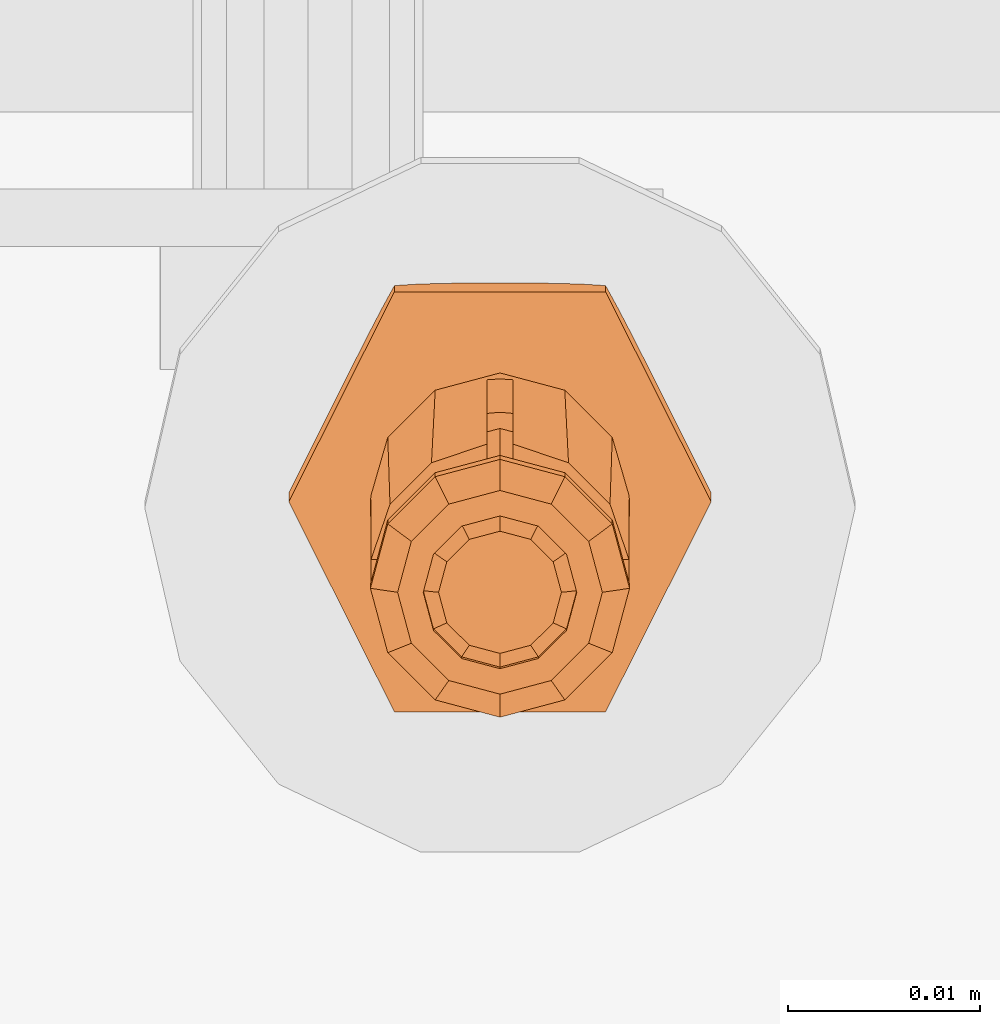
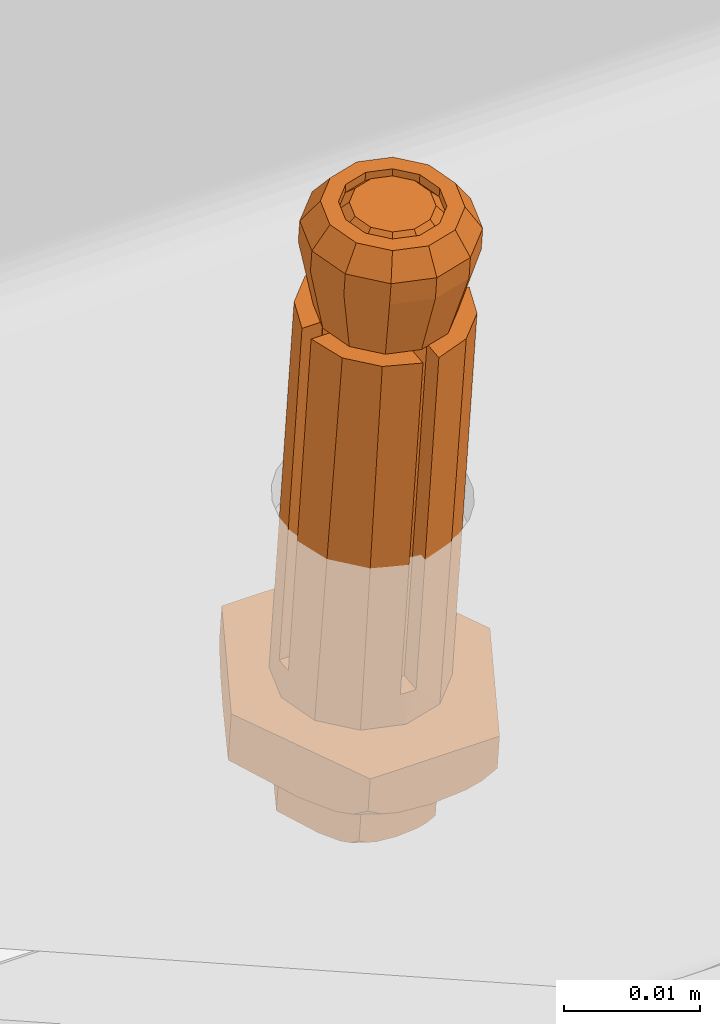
# One storey, part 144 of 162: 1 proxy.
"""IFC2X3 building model written with IfcOpenShell, lengths in millimetres."""

from ifc_helpers import new_model, entity, si_unit, converted_unit, origin_with_axes, place, context, project, spatial, faceted_brep, material, element, save


model = new_model("IFC2X3")

# Units and contexts
model_context = context("Model", 3, precision=1e-09, world=origin_with_axes())
ifc_project = project(units=[si_unit("LENGTHUNIT", "METRE", prefix="MILLI"), si_unit("AREAUNIT", "SQUARE_METRE"), si_unit("VOLUMEUNIT", "CUBIC_METRE"), converted_unit("PLANEANGLEUNIT", "DEGREE", entity("IfcPlaneAngleMeasure", 0.01745329), si_unit("PLANEANGLEUNIT", "RADIAN"), dimensions=[0, 0, 0, 0, 0, 0, 0])], contexts=[model_context])

# Site, building, storey
site_placement = place(None, origin_with_axes())
site = spatial("IfcSite", under=ifc_project, at=site_placement, Name="Hermannstra?e 1a, 60318 Frankfurt", CompositionType="ELEMENT")
building_placement = place(site_placement, origin_with_axes())
building = spatial("IfcBuilding", under=site, at=building_placement, Name="Struktur 1", CompositionType="ELEMENT")
storey_placement = place(building_placement, origin_with_axes())
storey = spatial("IfcBuildingStorey", under=building, at=storey_placement, Name="Default Storey", CompositionType="ELEMENT", Elevation=0.0)

# Proxy
ifc_material = material(Name="S235JR")
proxy_placement = place(None, origin_with_axes())
element("IfcBuildingElementProxy", 1, at=proxy_placement, inside=storey, material=ifc_material, ObjectType="-", context=model_context, shape_type="Brep", body=[
    faceted_brep([(2860.109364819, 2645.593143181, 17430.626436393), (2859.309364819, 2645.676765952, 17429.830818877), (2859.845263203, 2643.687722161, 17429.621761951), (2860.538083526, 2644.001908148, 17430.459190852), (2861.309364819, 2642.231641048, 17429.468721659), (2861.709364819, 2642.837043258, 17430.336758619), (2866.080646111, 2647.184378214, 17430.793681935), (2864.909364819, 2648.349243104, 17430.916114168), (2863.309364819, 2648.775613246, 17430.960927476), (2861.709364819, 2648.349243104, 17430.916114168), (2860.538083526, 2647.184378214, 17430.793681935), (2863.309364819, 2642.410673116, 17430.291945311), (2864.909364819, 2642.837043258, 17430.336758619), (2866.080646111, 2644.001908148, 17430.459190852), (2866.509364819, 2645.593143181, 17430.626436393), (2859.845263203, 2647.665809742, 17430.039875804), (2863.309364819, 2641.69867837, 17429.412705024), (2859.309364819, 2650.150584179, 17387.265281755), (2859.845263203, 2648.161540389, 17387.056224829), (2859.845263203, 2652.13962797, 17387.474338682), (2861.309364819, 2649.121890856, 17430.192916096), (2861.309364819, 2646.705459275, 17386.903184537), (2866.773466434, 2643.687722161, 17429.621761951), (2867.309364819, 2645.676765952, 17429.830818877), (2865.309364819, 2642.231641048, 17429.468721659), (2863.309364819, 2649.654853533, 17430.24893273), (2865.309364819, 2649.121890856, 17430.192916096), (2866.773466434, 2647.665809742, 17430.039875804), (2861.309364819, 2653.595709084, 17387.627378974), (2863.309364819, 2646.172496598, 17386.847167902), (2858.9792378, 2647.664279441, 17387.003960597), (2860.809364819, 2645.844178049, 17386.812660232), (2863.309364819, 2645.177974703, 17386.742639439), (2865.809364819, 2645.844178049, 17386.812660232), (2867.639491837, 2647.664279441, 17387.003960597), (2868.309364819, 2650.150584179, 17387.265281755), (2867.639491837, 2652.636888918, 17387.526602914), (2865.809364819, 2654.45699031, 17387.717903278), (2863.309364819, 2655.123193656, 17387.787924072), (2860.809364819, 2654.45699031, 17387.717903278), (2858.9792378, 2652.636888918, 17387.526602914), (2858.309364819, 2650.150584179, 17387.265281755), (2863.309364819, 2654.128671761, 17387.683395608), (2865.309364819, 2653.595709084, 17387.627378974), (2866.773466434, 2652.13962797, 17387.474338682), (2867.309364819, 2650.150584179, 17387.265281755), (2866.773466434, 2648.161540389, 17387.056224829), (2865.309364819, 2646.705459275, 17386.903184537), (2858.355136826, 2649.312036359, 17388.785960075), (2858.355136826, 2650.654640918, 17388.927073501), (2860.61652503, 2650.82825943, 17421.121586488), (2859.096454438, 2649.316515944, 17420.962695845), (2858.355136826, 2645.967125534, 17420.610660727), (2859.096454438, 2643.960339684, 17420.399739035), (2860.61652503, 2642.448596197, 17420.240848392), (2858.314457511, 2649.758962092, 17388.832933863), (2858.314457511, 2650.207715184, 17388.880099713), (2858.355136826, 2647.309730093, 17420.751774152), (2862.634364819, 2651.565516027, 17421.199075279), (2862.634364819, 2654.910426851, 17389.374374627), (2857.579618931, 2643.089710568, 17420.308232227), (2859.741100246, 2640.940070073, 17420.082295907), (2862.634364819, 2639.959054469, 17419.979187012), (2862.634364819, 2641.711339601, 17420.163359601), (2856.593199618, 2645.967125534, 17420.610660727), (2862.634364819, 2645.056250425, 17388.338658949), (2856.593199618, 2649.312036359, 17388.785960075), (2856.593199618, 2650.654640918, 17388.927073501), (2856.563127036, 2650.207439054, 17388.880070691), (2856.563127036, 2649.759238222, 17388.832962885), (2863.984364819, 2645.056250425, 17388.338658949), (2863.984364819, 2654.910426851, 17389.374374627), (2856.593199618, 2647.309730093, 17420.751774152), (2859.741100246, 2652.336785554, 17421.280138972), (2857.579618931, 2650.18714506, 17421.054202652), (2862.634364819, 2653.317801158, 17421.383247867), (2863.083752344, 2654.950883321, 17389.378626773), (2863.534977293, 2654.950883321, 17389.378626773), (2863.083752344, 2645.015793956, 17388.334406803), (2868.263592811, 2649.312036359, 17388.785960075), (2863.534977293, 2645.015793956, 17388.334406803), (2866.002204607, 2642.448596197, 17420.240848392), (2867.522275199, 2643.960339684, 17420.399739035), (2863.984364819, 2641.711339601, 17420.163359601), (2863.984364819, 2651.565516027, 17421.199075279), (2867.522275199, 2649.316515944, 17420.962695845), (2866.002204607, 2650.82825943, 17421.121586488), (2868.263592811, 2647.309730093, 17420.751774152), (2868.263592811, 2650.654640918, 17388.927073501), (2856.559364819, 2650.306426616, 17385.782540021), (2862.634364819, 2656.662711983, 17389.558547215), (2863.984364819, 2656.662711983, 17389.558547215), (2863.534699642, 2656.692619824, 17389.561690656), (2863.084029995, 2656.692619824, 17389.561690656), (2857.463693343, 2646.949915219, 17385.429756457), (2863.534699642, 2643.274057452, 17388.15134292), (2863.984364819, 2643.303965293, 17388.154486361), (2862.634364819, 2643.303965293, 17388.154486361), (2863.084029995, 2643.274057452, 17388.15134292), (2868.304272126, 2649.758962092, 17388.832933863), (2868.263592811, 2645.967125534, 17420.610660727), (2863.984364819, 2639.959054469, 17419.979187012), (2863.984364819, 2653.317801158, 17421.383247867), (2869.039110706, 2650.18714506, 17421.054202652), (2866.877629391, 2652.336785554, 17421.280138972), (2870.025530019, 2647.309730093, 17420.751774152), (2868.304272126, 2650.207715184, 17388.880099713), (2857.463693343, 2653.662938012, 17386.135323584), (2859.934364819, 2656.120074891, 17386.393579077), (2859.934364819, 2644.49277834, 17385.171500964), (2870.055602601, 2650.207439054, 17388.880070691), (2870.025530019, 2650.654640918, 17388.927073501), (2870.025530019, 2649.312036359, 17388.785960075), (2870.055602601, 2649.759238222, 17388.832962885), (2870.025530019, 2645.967125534, 17420.610660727), (2863.309364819, 2643.593403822, 17385.076972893), (2866.877629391, 2640.940070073, 17420.082295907), (2869.039110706, 2643.089710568, 17420.308232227), (2863.309364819, 2657.019449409, 17386.488107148), (2852.309364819, 2650.306426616, 17385.782540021), (2857.809364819, 2639.366685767, 17384.632726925), (2868.809364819, 2639.366685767, 17384.632726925), (2874.309364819, 2650.306426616, 17385.782540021), (2868.809364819, 2661.246167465, 17386.932353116), (2857.809364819, 2661.246167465, 17386.932353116), (2866.684364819, 2656.120074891, 17386.393579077), (2869.155036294, 2653.662938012, 17386.135323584), (2870.059364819, 2650.306426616, 17385.782540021), (2869.155036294, 2646.949915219, 17385.429756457), (2866.684364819, 2644.49277834, 17385.171500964), (2857.239499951, 2640.92273113, 17380.731479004), (2859.042011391, 2639.76612164, 17380.83234845), (2857.809364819, 2639.689819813, 17381.55831184), (2857.525889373, 2640.767734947, 17380.704156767), (2856.585353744, 2642.275185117, 17380.379874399), (2852.309364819, 2650.773352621, 17381.340035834), (2855.145748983, 2645.172295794, 17380.360449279), (2867.576718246, 2639.76612164, 17380.83234845), (2868.809364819, 2639.689819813, 17381.55831184), (2860.418054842, 2639.807365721, 17380.439937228), (2863.309364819, 2639.833611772, 17380.190222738), (2866.200674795, 2639.807365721, 17380.439937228), (2858.040284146, 2641.720111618, 17380.166489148), (2856.585353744, 2659.285443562, 17382.167724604), (2855.145748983, 2656.455680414, 17381.546380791), (2857.809364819, 2661.569301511, 17383.857938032), (2857.239499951, 2660.535240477, 17382.7928368), (2852.771203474, 2650.79643214, 17381.120448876), (2859.042011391, 2661.645603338, 17383.131974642), (2867.576718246, 2661.645603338, 17383.131974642), (2866.200674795, 2661.686847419, 17382.73956342), (2863.309364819, 2661.71309347, 17382.48984893), (2860.418054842, 2661.686847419, 17382.73956342), (2868.809364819, 2661.569301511, 17383.857938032), (2863.309364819, 2640.315999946, 17380.018911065), (2869.379229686, 2640.92273113, 17380.731479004), (2869.092840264, 2640.767734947, 17380.704156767), (2858.634364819, 2642.766586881, 17380.053939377), (2853.959364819, 2650.819566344, 17380.900341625), (2857.525889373, 2660.692530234, 17382.798337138), (2870.033375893, 2642.275185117, 17380.379874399), (2871.472980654, 2645.172295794, 17380.360449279), (2874.309364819, 2650.773352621, 17381.340035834), (2868.578445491, 2641.720111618, 17380.166489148), (2855.212027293, 2646.170176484, 17380.411671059), (2863.309364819, 2641.520786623, 17379.923000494), (2858.040284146, 2659.872752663, 17382.074408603), (2869.092840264, 2660.692530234, 17382.798337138), (2869.379229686, 2660.535240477, 17382.7928368), (2871.472980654, 2656.455680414, 17381.546380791), (2870.033375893, 2659.285443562, 17382.167724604), (2867.984364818, 2642.766586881, 17380.053939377), (2855.212027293, 2655.468956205, 17381.389012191), (2858.634364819, 2658.872545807, 17381.746743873), (2863.309364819, 2660.118346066, 17381.877682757), (2867.984364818, 2658.872545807, 17381.746743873), (2871.406702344, 2655.468956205, 17381.389012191), (2872.659364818, 2650.819566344, 17380.900341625), (2871.406702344, 2646.170176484, 17380.411671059), (2860.059364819, 2644.355174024, 17380.220906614), (2866.559364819, 2644.355174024, 17380.220906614), (2869.809364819, 2650.819566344, 17380.900341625), (2866.559364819, 2657.283958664, 17381.579776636), (2860.059364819, 2657.283958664, 17381.579776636), (2856.809364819, 2650.819566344, 17380.900341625), (2859.722626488, 2645.64041861, 17374.435619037), (2860.787746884, 2644.956967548, 17374.49522371), (2860.059364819, 2644.911880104, 17374.924202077), (2856.809364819, 2651.4612404, 17374.7952208), (2858.485410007, 2648.151525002, 17374.216374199), (2859.336085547, 2646.439595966, 17374.227852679), (2863.309364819, 2661.276864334, 17382.221986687), (2868.578445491, 2659.872752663, 17382.074408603), (2865.017866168, 2644.98133905, 17374.263344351), (2865.830982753, 2644.956967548, 17374.49522371), (2866.559364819, 2644.911880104, 17374.924202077), (2861.600863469, 2644.98133905, 17374.263344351), (2863.309364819, 2644.99684808, 17374.115785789), (2859.891856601, 2645.548829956, 17374.419474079), (2857.082269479, 2651.474878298, 17374.66546487), (2873.847526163, 2650.79643214, 17381.120448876), (2860.195817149, 2646.111597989, 17374.101761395), (2857.784364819, 2651.488548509, 17374.535401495), (2858.485410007, 2654.818979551, 17374.917151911), (2860.059364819, 2657.840664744, 17376.283072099), (2859.722626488, 2657.229628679, 17375.653694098), (2859.336085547, 2656.49111232, 17375.284309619), (2858.524574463, 2648.741181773, 17374.246641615), (2860.787746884, 2657.885752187, 17375.854093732), (2866.559364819, 2657.840664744, 17376.283072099), (2865.830982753, 2657.885752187, 17375.854093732), (2865.017866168, 2657.91012369, 17375.622214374), (2863.309364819, 2657.92563272, 17375.474655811), (2861.600863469, 2657.91012369, 17375.622214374), (2866.896103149, 2645.64041861, 17374.435619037), (2863.309364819, 2645.281895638, 17374.014556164), (2860.546864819, 2646.729969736, 17374.035254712), (2866.071864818, 2656.247127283, 17375.035548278), (2868.094155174, 2654.235915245, 17374.824161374), (2868.834364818, 2651.488548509, 17374.535401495), (2868.094155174, 2648.741181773, 17374.246641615), (2866.071864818, 2646.729969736, 17374.035254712), (2863.309364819, 2645.993815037, 17373.957881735), (2858.524574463, 2654.235915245, 17374.824161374), (2860.546864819, 2656.247127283, 17375.035548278), (2863.309364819, 2656.983281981, 17375.112921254), (2859.891856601, 2657.322572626, 17375.656944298), (2866.726873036, 2645.548829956, 17374.419474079), (2867.28264409, 2646.439595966, 17374.227852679), (2868.13331963, 2648.151525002, 17374.216374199), (2869.809364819, 2651.4612404, 17374.7952208), (2860.195817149, 2656.838158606, 17375.229168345), (2866.896103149, 2657.229628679, 17375.653694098), (2866.422912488, 2646.111597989, 17374.101761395), (2863.309364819, 2657.667860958, 17375.316373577), (2866.726873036, 2657.322572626, 17375.656944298), (2868.13331963, 2654.818979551, 17374.917151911), (2867.28264409, 2656.49111232, 17375.284309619), (2866.422912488, 2656.838158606, 17375.229168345), (2869.536460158, 2651.474878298, 17374.66546487)], [[[0, 1, 2, 3]], [[3, 2, 4, 5]], [[6, 7, 8, 9, 10, 0, 3, 5, 11, 12, 13, 14]], [[1, 0, 10, 15]], [[5, 4, 16, 11]], [[1, 17, 18, 2]], [[15, 19, 17, 1]], [[15, 10, 9, 20]], [[2, 18, 21, 4]], [[13, 22, 23, 14]], [[12, 24, 22, 13]], [[11, 16, 24, 12]], [[8, 25, 20, 9]], [[7, 26, 25, 8]], [[6, 27, 26, 7]], [[14, 23, 27, 6]], [[19, 15, 20, 28]], [[4, 21, 29, 16]], [[30, 31, 32, 33, 34, 35, 36, 37, 38, 39, 40, 41], [29, 21, 18, 17, 19, 28, 42, 43, 44, 45, 46, 47]], [[28, 20, 25, 42]], [[22, 46, 45, 23]], [[24, 47, 46, 22]], [[16, 29, 47, 24]], [[26, 43, 42, 25]], [[27, 44, 43, 26]], [[23, 45, 44, 27]], [[30, 41, 48]], [[41, 40, 49]], [[40, 39, 50, 51]], [[30, 52, 53]], [[31, 30, 53, 54]], [[30, 48, 52]], [[41, 55, 48]], [[41, 56, 55]], [[41, 49, 56]], [[40, 57, 49]], [[40, 51, 57]], [[39, 58, 50]], [[39, 38, 59]], [[60, 61, 62, 63, 54, 53, 52, 64]], [[32, 31, 65]], [[31, 54, 63]], [[52, 48, 66, 64]], [[55, 56, 49, 67, 68, 69, 66, 48]], [[33, 32, 70]], [[38, 37, 71]], [[49, 57, 72, 67]], [[73, 74, 72, 57, 51, 50, 58, 75]], [[39, 59, 58]], [[38, 76, 59]], [[38, 77, 76]], [[32, 65, 78]], [[31, 63, 65]], [[35, 34, 79]], [[32, 80, 70]], [[32, 78, 80]], [[34, 33, 81, 82]], [[33, 70, 83]], [[38, 71, 77]], [[37, 84, 71]], [[37, 36, 85, 86]], [[36, 87, 85]], [[36, 35, 88]], [[69, 68, 89]], [[58, 59, 90, 75]], [[76, 77, 71, 91, 92, 93, 90, 59]], [[60, 64, 94]], [[95, 96, 70, 80, 78, 65, 97, 98]], [[65, 63, 62, 97]], [[66, 94, 64]], [[66, 69, 89]], [[35, 79, 99]], [[34, 100, 79]], [[34, 82, 100]], [[83, 70, 96, 101]], [[33, 83, 81]], [[71, 84, 102, 91]], [[37, 86, 84]], [[103, 104, 102, 84, 86, 85, 87, 105]], [[36, 88, 87]], [[35, 106, 88]], [[35, 99, 106]], [[67, 89, 68]], [[67, 72, 107]], [[72, 74, 107]], [[73, 108, 107, 74]], [[73, 75, 108]], [[60, 94, 109, 61]], [[62, 61, 109]], [[66, 89, 94]], [[110, 111, 88, 106, 99, 79, 112, 113]], [[79, 100, 114, 112]], [[95, 98, 115]], [[116, 117, 114, 100, 82, 81, 83, 101]], [[93, 92, 118]], [[87, 88, 111, 105]], [[67, 107, 89]], [[90, 108, 75]], [[90, 93, 118]], [[97, 115, 98]], [[97, 62, 109]], [[119, 120, 121, 122, 123, 124], [109, 94, 89, 107, 108, 118, 125, 126, 127, 128, 129, 115]], [[96, 129, 101]], [[96, 95, 115]], [[116, 101, 129]], [[91, 118, 92]], [[91, 102, 125]], [[103, 105, 126]], [[110, 113, 127]], [[90, 118, 108]], [[97, 109, 115]], [[112, 127, 113]], [[112, 114, 128]], [[96, 115, 129]], [[114, 117, 128]], [[116, 129, 128, 117]], [[130, 131, 132]], [[130, 133, 131]], [[134, 133, 130]], [[135, 136, 134, 130, 132, 120, 119]], [[91, 125, 118]], [[102, 104, 125]], [[103, 126, 125, 104]], [[111, 126, 105]], [[111, 110, 127]], [[112, 128, 127]], [[137, 138, 121, 120, 132, 131, 139, 140, 141]], [[133, 139, 131]], [[134, 142, 133]], [[111, 127, 126]], [[143, 144, 135, 119, 124, 145, 146]], [[133, 142, 139]], [[136, 142, 134]], [[147, 136, 135]], [[146, 145, 148]], [[149, 150, 151, 152, 148, 145, 124, 123, 153]], [[140, 139, 154]], [[155, 138, 137]], [[141, 156, 137]], [[155, 137, 156]], [[142, 154, 139]], [[136, 157, 142]], [[147, 158, 136]], [[144, 147, 135]], [[143, 146, 159]], [[146, 148, 159]], [[160, 161, 162, 122, 121, 138, 155]], [[141, 140, 154]], [[141, 163, 156]], [[160, 155, 156]], [[157, 136, 164]], [[142, 157, 165, 154]], [[158, 164, 136]], [[144, 158, 147]], [[143, 159, 166]], [[152, 159, 148]], [[167, 150, 149]], [[168, 167, 149]], [[168, 149, 153]], [[162, 169, 170, 168, 153, 123, 122]], [[141, 154, 163]], [[160, 156, 163]], [[171, 165, 157, 164, 158, 172, 173, 174, 175, 176, 177, 178], [179, 180, 181, 182, 183, 184]], [[185, 186, 187]], [[179, 184, 188, 189, 190, 185, 187]], [[158, 144, 172]], [[166, 144, 143]], [[152, 166, 159]], [[152, 151, 191]], [[151, 150, 191]], [[167, 192, 150]], [[170, 167, 168]], [[154, 165, 171, 163]], [[163, 161, 160]], [[193, 194, 195, 180, 179, 187, 186, 196, 197]], [[185, 198, 186]], [[190, 198, 185]], [[199, 189, 188]], [[173, 172, 144]], [[166, 173, 144]], [[152, 191, 166]], [[192, 191, 150]], [[170, 192, 167]], [[161, 200, 162]], [[163, 171, 161]], [[198, 196, 186]], [[190, 201, 198]], [[199, 202, 189]], [[203, 199, 188]], [[183, 204, 205, 206, 203, 188, 184]], [[173, 166, 191, 174]], [[192, 175, 174, 191]], [[169, 192, 170]], [[200, 169, 162]], [[161, 177, 200]], [[171, 178, 161]], [[198, 201, 196]], [[189, 201, 190]], [[202, 207, 189]], [[205, 204, 208]], [[203, 202, 199]], [[183, 182, 209, 210, 211, 212, 213, 208, 204]], [[169, 175, 192]], [[177, 161, 178]], [[200, 177, 169]], [[214, 195, 194]], [[197, 196, 215]], [[201, 215, 196]], [[189, 216, 201]], [[216, 189, 207]], [[217, 218, 219, 220, 221, 222, 216, 207, 202, 223, 224, 225]], [[206, 205, 226]], [[205, 208, 226]], [[202, 203, 223]], [[175, 169, 176]], [[177, 176, 169]], [[193, 227, 194]], [[214, 194, 227]], [[228, 229, 230, 181, 180, 195, 214]], [[193, 197, 215]], [[201, 216, 222, 215]], [[206, 226, 231]], [[213, 226, 208]], [[224, 223, 203]], [[231, 203, 206]], [[232, 210, 209]], [[193, 233, 227]], [[228, 214, 227]], [[193, 215, 233]], [[213, 231, 226]], [[231, 224, 203]], [[213, 212, 234]], [[235, 211, 210]], [[232, 235, 210]], [[182, 181, 230, 236, 237, 232, 209]], [[228, 227, 233]], [[215, 222, 221, 233]], [[213, 234, 231]], [[224, 231, 234, 225]], [[212, 211, 234]], [[235, 238, 211]], [[237, 235, 232]], [[229, 239, 230]], [[233, 229, 228]], [[239, 236, 230]], [[238, 234, 211]], [[237, 238, 235]], [[229, 219, 239]], [[233, 221, 229]], [[225, 234, 238, 217]], [[239, 219, 236]], [[236, 238, 237]], [[219, 229, 220]], [[221, 220, 229]], [[219, 218, 236]], [[236, 217, 238]], [[217, 236, 218]]]),
    faceted_brep([(2859.934364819, 2651.615848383, 17429.248431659), (2860.642698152, 2650.186643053, 17431.109232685), (2863.309364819, 2650.897259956, 17431.183921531), (2863.309364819, 2652.515222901, 17429.34295973), (2863.309364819, 2651.942544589, 17421.238702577), (2863.309364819, 2652.724279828, 17427.353915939), (2866.684364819, 2651.82490531, 17427.259387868), (2865.976031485, 2651.231927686, 17421.164013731), (2857.463693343, 2649.158711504, 17428.990176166), (2858.690562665, 2648.245201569, 17430.905178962), (2857.976031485, 2645.593143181, 17430.626436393), (2858.690562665, 2642.941084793, 17430.347693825), (2860.642698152, 2640.999643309, 17430.143640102), (2863.309364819, 2640.289026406, 17430.068951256), (2865.976031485, 2640.999643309, 17430.143640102), (2867.928166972, 2642.941084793, 17430.347693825), (2868.642698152, 2645.593143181, 17430.626436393), (2867.928166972, 2648.245201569, 17430.905178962), (2865.976031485, 2650.186643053, 17431.109232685), (2859.309364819, 2645.593143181, 17430.626436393), (2859.845263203, 2647.582186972, 17430.83549332), (2861.309364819, 2649.038268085, 17430.988533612), (2863.309364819, 2649.571230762, 17431.044550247), (2865.309364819, 2649.038268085, 17430.988533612), (2866.773466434, 2647.582186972, 17430.83549332), (2867.309364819, 2645.593143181, 17430.626436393), (2866.773466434, 2643.60409939, 17430.417379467), (2865.309364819, 2642.148018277, 17430.264339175), (2863.309364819, 2641.6150556, 17430.20832254), (2861.309364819, 2642.148018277, 17430.264339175), (2859.845263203, 2643.60409939, 17430.417379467), (2858.690562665, 2649.290486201, 17420.959960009), (2860.642698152, 2651.231927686, 17421.164013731), (2867.928166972, 2649.290486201, 17420.959960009), (2868.642698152, 2646.638427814, 17420.68121744), (2867.928166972, 2643.986369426, 17420.402474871), (2865.976031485, 2642.044927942, 17420.198421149), (2863.309364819, 2641.334311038, 17420.123732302), (2860.642698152, 2642.044927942, 17420.198421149), (2858.690562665, 2643.986369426, 17420.402474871), (2857.976031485, 2646.638427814, 17420.68121744), (2863.309364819, 2650.616515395, 17421.099331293), (2861.309364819, 2650.083552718, 17421.043314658), (2859.845263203, 2648.627471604, 17420.890274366), (2859.309364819, 2646.638427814, 17420.68121744), (2859.845263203, 2644.649384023, 17420.472160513), (2861.309364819, 2643.19330291, 17420.319120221), (2863.309364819, 2642.660340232, 17420.263103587), (2865.309364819, 2643.19330291, 17420.319120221), (2866.773466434, 2644.649384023, 17420.472160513), (2867.309364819, 2646.638427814, 17420.68121744), (2866.773466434, 2648.627471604, 17420.890274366), (2865.309364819, 2650.083552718, 17421.043314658), (2859.934364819, 2651.82490531, 17427.259387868), (2866.684364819, 2651.615848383, 17429.248431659), (2869.155036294, 2649.367768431, 17427.001132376), (2856.559364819, 2645.802200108, 17428.637392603), (2857.463693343, 2649.367768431, 17427.001132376), (2869.155036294, 2649.158711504, 17428.990176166), (2870.059364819, 2646.011257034, 17426.648348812), (2857.463693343, 2642.445688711, 17428.284609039), (2856.559364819, 2646.011257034, 17426.648348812), (2870.059364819, 2645.802200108, 17428.637392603), (2869.155036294, 2642.654745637, 17426.295565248), (2859.934364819, 2639.988551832, 17428.026353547), (2857.463693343, 2642.654745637, 17426.295565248), (2869.155036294, 2642.445688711, 17428.284609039), (2866.684364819, 2640.197608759, 17426.037309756), (2863.309364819, 2639.089177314, 17427.931825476), (2859.934364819, 2640.197608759, 17426.037309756), (2866.684364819, 2639.988551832, 17428.026353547), (2863.309364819, 2639.29823424, 17425.942781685)], [[[0, 1, 2, 3]], [[4, 5, 6, 7]], [[1, 0, 8, 9]], [[9, 10, 11, 12, 13, 14, 15, 16, 17, 18, 2, 1], [19, 20, 21, 22, 23, 24, 25, 26, 27, 28, 29, 30]], [[31, 32, 4, 7, 33, 34, 35, 36, 37, 38, 39, 40], [41, 42, 43, 44, 45, 46, 47, 48, 49, 50, 51, 52]], [[5, 4, 32, 53]], [[41, 22, 21, 42]], [[3, 5, 53, 0]], [[22, 41, 52, 23]], [[3, 2, 18, 54]], [[5, 3, 54, 6]], [[7, 6, 55, 33]], [[9, 8, 56, 10]], [[0, 53, 57, 8]], [[42, 21, 20, 43]], [[53, 32, 31, 57]], [[23, 52, 51, 24]], [[54, 18, 17, 58]], [[6, 54, 58, 55]], [[33, 55, 59, 34]], [[10, 56, 60, 11]], [[8, 57, 61, 56]], [[19, 44, 43, 20]], [[57, 31, 40, 61]], [[50, 25, 24, 51]], [[44, 19, 30, 45]], [[58, 17, 16, 62]], [[55, 58, 62, 59]], [[29, 46, 45, 30]], [[34, 59, 63, 35]], [[49, 26, 25, 50]], [[48, 27, 26, 49]], [[28, 47, 46, 29]], [[11, 60, 64, 12]], [[56, 61, 65, 60]], [[61, 40, 39, 65]], [[47, 28, 27, 48]], [[62, 16, 15, 66]], [[59, 62, 66, 63]], [[35, 63, 67, 36]], [[12, 64, 68, 13]], [[60, 65, 69, 64]], [[65, 39, 38, 69]], [[66, 15, 14, 70]], [[63, 66, 70, 67]], [[37, 71, 69, 38]], [[36, 67, 71, 37]], [[13, 68, 70, 14]], [[64, 69, 71, 68]], [[67, 70, 68, 71]]]),
])

save(model, "model.ifc")
